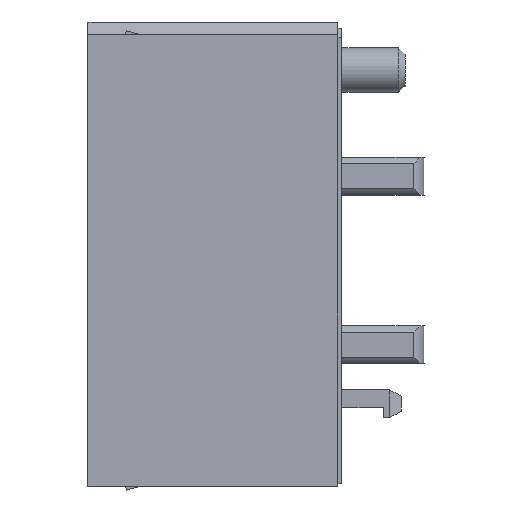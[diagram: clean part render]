
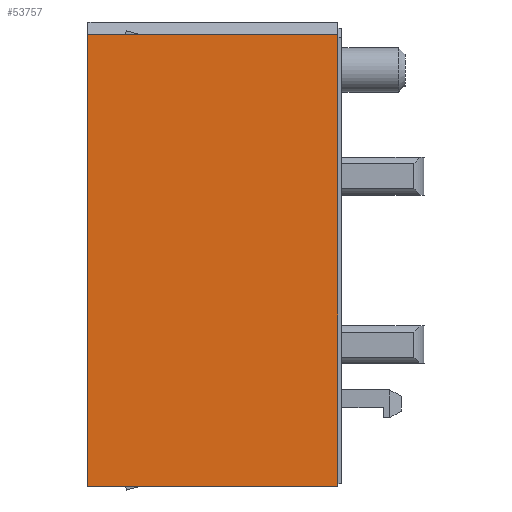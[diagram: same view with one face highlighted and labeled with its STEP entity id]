
A CAD part, left-side view. The second image highlights one B-rep face of the part: STEP entity #53757.
In plain terms, the highlighted planar face has unit normal (-1, 0, 0).
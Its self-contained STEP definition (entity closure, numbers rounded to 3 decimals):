
#249=CARTESIAN_POINT('',(-15.0,-9.7,17.8));
#250=VERTEX_POINT('',#249);
#257=CARTESIAN_POINT('',(-15.0,-9.7,-17.8));
#258=VERTEX_POINT('',#257);
#259=CARTESIAN_POINT('',(-15.0,-9.7,-17.8));
#260=DIRECTION('',(0.0,0.0,1.0));
#261=VECTOR('',#260,35.6);
#262=LINE('',#259,#261);
#263=EDGE_CURVE('',#258,#250,#262,.T.);
#15658=CARTESIAN_POINT('',(-15.0,10.0,-17.8));
#15659=VERTEX_POINT('',#15658);
#15660=CARTESIAN_POINT('',(-15.0,10.0,-17.8));
#15661=DIRECTION('',(0.0,-1.0,0.0));
#15662=VECTOR('',#15661,19.7);
#15663=LINE('',#15660,#15662);
#15664=EDGE_CURVE('',#15659,#258,#15663,.T.);
#53734=CARTESIAN_POINT('',(-15.0,0.0,17.8));
#53735=DIRECTION('',(-1.0,0.0,0.0));
#53736=DIRECTION('',(0.0,0.0,1.0));
#53737=AXIS2_PLACEMENT_3D('',#53734,#53735,#53736);
#53738=PLANE('',#53737);
#53739=ORIENTED_EDGE('',*,*,#15664,.T.);
#53740=ORIENTED_EDGE('',*,*,#263,.T.);
#53741=CARTESIAN_POINT('',(-15.0,10.0,17.8));
#53742=VERTEX_POINT('',#53741);
#53743=CARTESIAN_POINT('',(-15.0,-9.7,17.8));
#53744=DIRECTION('',(0.0,1.0,0.0));
#53745=VECTOR('',#53744,19.7);
#53746=LINE('',#53743,#53745);
#53747=EDGE_CURVE('',#250,#53742,#53746,.T.);
#53748=ORIENTED_EDGE('',*,*,#53747,.T.);
#53749=CARTESIAN_POINT('',(-15.0,10.0,17.8));
#53750=DIRECTION('',(0.0,0.0,-1.0));
#53751=VECTOR('',#53750,35.6);
#53752=LINE('',#53749,#53751);
#53753=EDGE_CURVE('',#53742,#15659,#53752,.T.);
#53754=ORIENTED_EDGE('',*,*,#53753,.T.);
#53755=EDGE_LOOP('',(#53739,#53740,#53748,#53754));
#53756=FACE_OUTER_BOUND('',#53755,.T.);
#53757=ADVANCED_FACE('',(#53756),#53738,.T.);
